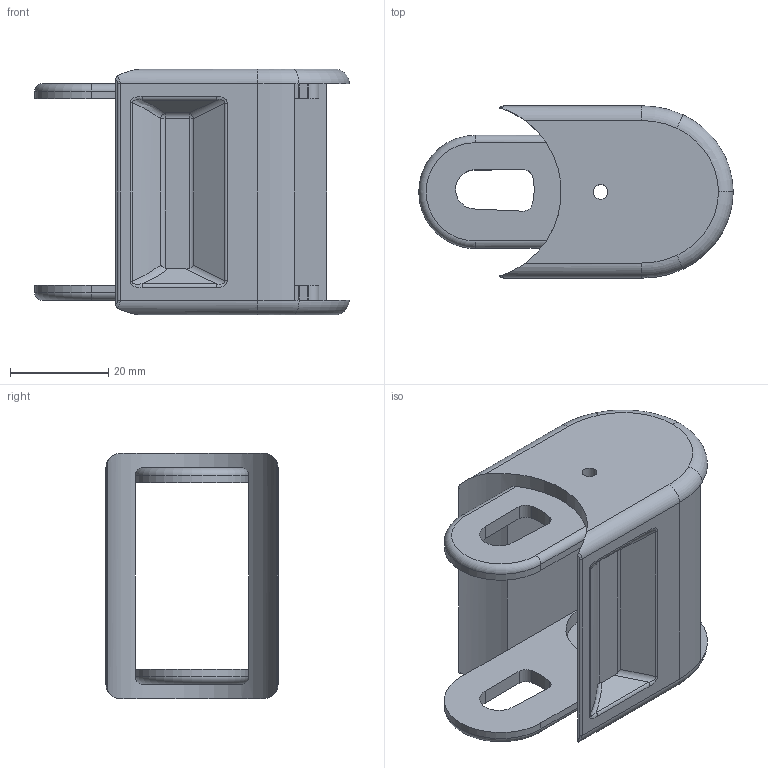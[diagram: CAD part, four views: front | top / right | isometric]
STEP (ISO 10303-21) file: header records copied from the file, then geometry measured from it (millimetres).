
FILE_DESCRIPTION((''),'2;1');
FILE_NAME('E:\wolf\andere Formate\PFR122-75.stp','2007-06-04T07:55:55',('Wolf'),(''),'Autodesk Inventor 10','Autodesk Inventor 10','');
FILE_SCHEMA(('AUTOMOTIVE_DESIGN { 1 0 10303 214 1 1 1 1 }'));
Length unit declared in the file: millimetre
Products named in the file (1): PFR122-75
Bounding box: 64 x 35 x 50 mm (x, y, z)
Volume: 21007.2 mm3; surface area: 14983.5 mm2
Topology: 1 solids, 1 shells, 150 faces, 379 edges, 233 vertices
Faces by surface type: bspline 63, cylinder 41, plane 36, torus 10
Entity records: 5851 total; most frequent: CARTESIAN_POINT 2412, ORIENTED_EDGE 752, DIRECTION 644, EDGE_CURVE 376, VERTEX_POINT 232, AXIS2_PLACEMENT_3D 224, VECTOR 196, LINE 196
